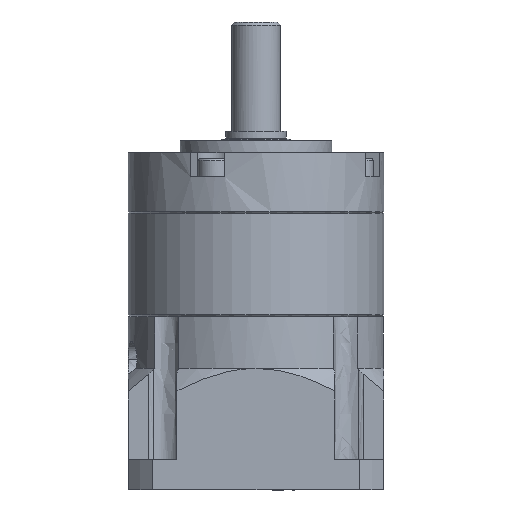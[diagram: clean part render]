
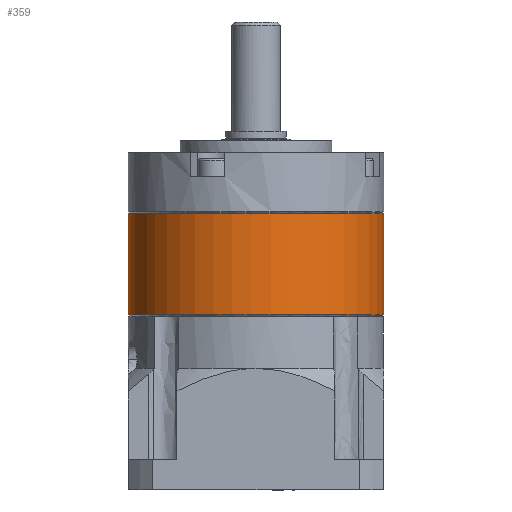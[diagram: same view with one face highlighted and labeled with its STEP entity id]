
A CAD part, front view. The second image highlights one B-rep face of the part: STEP entity #359.
In plain terms, the highlighted free-form (B-spline) face has degree [1, 3] with [2, 4] control points.
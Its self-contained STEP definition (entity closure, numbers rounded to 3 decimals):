
#359 = ADVANCED_FACE ( 'NONE', ( #11492 ), #8948, .F. ) ;
#1163 = CARTESIAN_POINT ( 'NONE',  ( 21., 0., 0. ) ) ;
#1392 = EDGE_LOOP ( 'NONE', ( #9117, #2896, #11937, #7273 ) ) ;
#2246 = EDGE_CURVE ( 'NONE', #9098, #3754, #2600, .T. ) ;
#2547 = CARTESIAN_POINT ( 'NONE',  ( 21., 0., -16.7 ) ) ;
#2600 =( BOUNDED_CURVE ( )  B_SPLINE_CURVE ( 3, ( #7181, #12874, #13019, #2763 ),
 .UNSPECIFIED., .F., .F. ) 
 B_SPLINE_CURVE_WITH_KNOTS ( ( 4, 4 ),
 ( -3.142, 0. ),
 .UNSPECIFIED. ) 
 CURVE ( )  GEOMETRIC_REPRESENTATION_ITEM ( )  RATIONAL_B_SPLINE_CURVE ( ( 1., 0.333, 0.333, 1. ) ) 
 REPRESENTATION_ITEM ( '' )  );
#2741 = CARTESIAN_POINT ( 'NONE',  ( -21., 0., 0. ) ) ;
#2763 = CARTESIAN_POINT ( 'NONE',  ( -21., 0., 0. ) ) ;
#2896 = ORIENTED_EDGE ( 'NONE', *, *, #4310, .F. ) ;
#3308 = B_SPLINE_CURVE_WITH_KNOTS ( 'NONE', 1,
 ( #11618, #13909 ),
 .UNSPECIFIED., .F., .F.,
 ( 2, 2 ),
 ( -1., 0. ),
 .UNSPECIFIED. ) ;
#3508 = CARTESIAN_POINT ( 'NONE',  ( 21., 0., 0. ) ) ;
#3690 = CARTESIAN_POINT ( 'NONE',  ( 21., -42., -16.7 ) ) ;
#3754 = VERTEX_POINT ( 'NONE', #2741 ) ;
#3796 =( BOUNDED_CURVE ( )  B_SPLINE_CURVE ( 3, ( #6388, #14077, #3974, #7340 ),
 .UNSPECIFIED., .F., .F. ) 
 B_SPLINE_CURVE_WITH_KNOTS ( ( 4, 4 ),
 ( -3.142, 0. ),
 .UNSPECIFIED. ) 
 CURVE ( )  GEOMETRIC_REPRESENTATION_ITEM ( )  RATIONAL_B_SPLINE_CURVE ( ( 1., 0.333, 0.333, 1. ) ) 
 REPRESENTATION_ITEM ( '' )  );
#3974 = CARTESIAN_POINT ( 'NONE',  ( -21., -42., -16.7 ) ) ;
#4310 = EDGE_CURVE ( 'NONE', #9098, #12231, #8782, .T. ) ;
#4723 = CARTESIAN_POINT ( 'NONE',  ( -21., 0., 0. ) ) ;
#4866 = CARTESIAN_POINT ( 'NONE',  ( -21., 0., -16.7 ) ) ;
#6106 = EDGE_CURVE ( 'NONE', #10333, #3754, #3308, .T. ) ;
#6388 = CARTESIAN_POINT ( 'NONE',  ( 21., 0., -16.7 ) ) ;
#7181 = CARTESIAN_POINT ( 'NONE',  ( 21., 0., 0. ) ) ;
#7273 = ORIENTED_EDGE ( 'NONE', *, *, #6106, .F. ) ;
#7340 = CARTESIAN_POINT ( 'NONE',  ( -21., 0., -16.7 ) ) ;
#7942 = CARTESIAN_POINT ( 'NONE',  ( 21., 0., -16.7 ) ) ;
#8557 = CARTESIAN_POINT ( 'NONE',  ( 21., 0., -16.7 ) ) ;
#8782 = B_SPLINE_CURVE_WITH_KNOTS ( 'NONE', 1,
 ( #3508, #2547 ),
 .UNSPECIFIED., .F., .F.,
 ( 2, 2 ),
 ( -1., 0. ),
 .UNSPECIFIED. ) ;
#8948 =( BOUNDED_SURFACE ( )  B_SPLINE_SURFACE ( 1, 3, ( 
 ( #4866, #11422, #3690, #7942 ),
 ( #4723, #11569, #9129, #1163 ) ),
 .UNSPECIFIED., .F., .F., .T. ) 
 B_SPLINE_SURFACE_WITH_KNOTS ( ( 2, 2 ),
 ( 4, 4 ),
 ( 0., 1. ),
 ( 0., 1. ),
 .UNSPECIFIED. ) 
 GEOMETRIC_REPRESENTATION_ITEM ( )  RATIONAL_B_SPLINE_SURFACE ( (
 ( 1., 0.333, 0.333, 1.),
 ( 1., 0.333, 0.333, 1.) ) ) 
 REPRESENTATION_ITEM ( '' )  SURFACE ( )  );
#9098 = VERTEX_POINT ( 'NONE', #12816 ) ;
#9117 = ORIENTED_EDGE ( 'NONE', *, *, #10651, .F. ) ;
#9129 = CARTESIAN_POINT ( 'NONE',  ( 21., -42., 0. ) ) ;
#10333 = VERTEX_POINT ( 'NONE', #11379 ) ;
#10651 = EDGE_CURVE ( 'NONE', #12231, #10333, #3796, .T. ) ;
#11379 = CARTESIAN_POINT ( 'NONE',  ( -21., 0., -16.7 ) ) ;
#11422 = CARTESIAN_POINT ( 'NONE',  ( -21., -42., -16.7 ) ) ;
#11492 = FACE_OUTER_BOUND ( 'NONE', #1392, .T. ) ;
#11569 = CARTESIAN_POINT ( 'NONE',  ( -21., -42., 0. ) ) ;
#11618 = CARTESIAN_POINT ( 'NONE',  ( -21., 0., -16.7 ) ) ;
#11937 = ORIENTED_EDGE ( 'NONE', *, *, #2246, .T. ) ;
#12231 = VERTEX_POINT ( 'NONE', #8557 ) ;
#12816 = CARTESIAN_POINT ( 'NONE',  ( 21., 0., 0. ) ) ;
#12874 = CARTESIAN_POINT ( 'NONE',  ( 21., -42., 0. ) ) ;
#13019 = CARTESIAN_POINT ( 'NONE',  ( -21., -42., 0. ) ) ;
#13909 = CARTESIAN_POINT ( 'NONE',  ( -21., 0., 0. ) ) ;
#14077 = CARTESIAN_POINT ( 'NONE',  ( 21., -42., -16.7 ) ) ;
